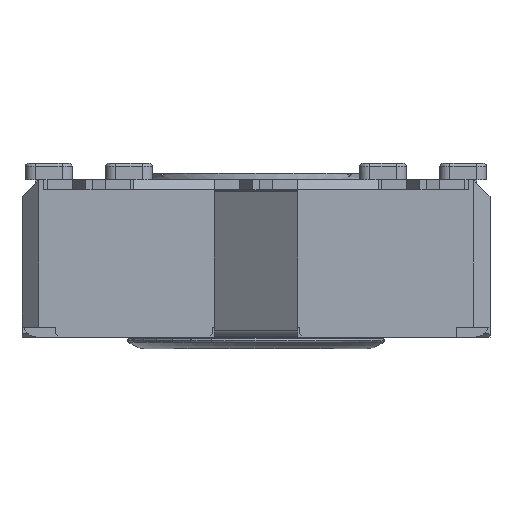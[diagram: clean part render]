
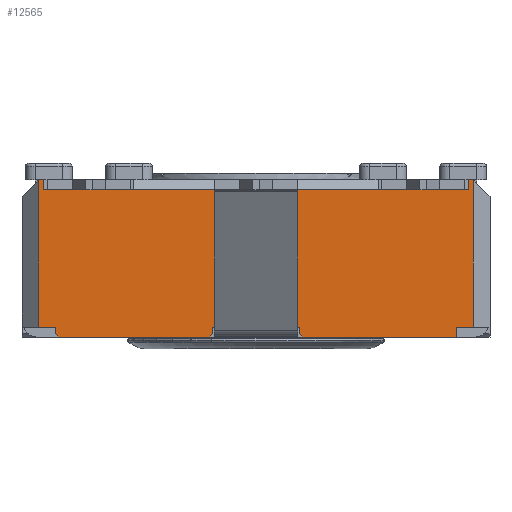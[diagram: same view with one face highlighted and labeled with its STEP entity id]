
A CAD part, front view. The second image highlights one B-rep face of the part: STEP entity #12565.
In plain terms, the highlighted planar face has unit normal (0, -1, 0).
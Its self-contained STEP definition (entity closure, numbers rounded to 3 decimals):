
#405=PLANE('',#13409);
#989=FACE_OUTER_BOUND('',#1662,.T.);
#1662=EDGE_LOOP('',(#10147,#10148,#10149,#10150,#10151,#10152,#10153,#10154,
#10155,#10156,#10157,#10158,#10159,#10160,#10161,#10162,#10163,#10164,#10165,
#10166,#10167,#10168,#10169,#10170,#10171,#10172,#10173));
#2054=LINE('',#17519,#3507);
#2056=LINE('',#17524,#3509);
#2123=LINE('',#17676,#3576);
#2161=LINE('',#17777,#3614);
#2166=LINE('',#17787,#3619);
#2228=LINE('',#17918,#3681);
#2235=LINE('',#17935,#3688);
#2364=LINE('',#18339,#3817);
#2379=LINE('',#18368,#3832);
#2447=LINE('',#18520,#3900);
#2455=LINE('',#18533,#3908);
#2571=LINE('',#18907,#4024);
#2778=LINE('',#19431,#4231);
#2783=LINE('',#19440,#4236);
#2786=LINE('',#19445,#4239);
#2873=LINE('',#19722,#4326);
#2881=LINE('',#19740,#4334);
#2887=LINE('',#19748,#4340);
#2888=LINE('',#19751,#4341);
#2889=LINE('',#19753,#4342);
#2890=LINE('',#19755,#4343);
#2891=LINE('',#19756,#4344);
#2892=LINE('',#19757,#4345);
#2893=LINE('',#19758,#4346);
#2894=LINE('',#19759,#4347);
#2895=LINE('',#19760,#4348);
#2896=LINE('',#19761,#4349);
#3507=VECTOR('',#14033,10.);
#3509=VECTOR('',#14037,10.);
#3576=VECTOR('',#14148,10.);
#3614=VECTOR('',#14224,10.);
#3619=VECTOR('',#14229,10.);
#3681=VECTOR('',#14341,10.);
#3688=VECTOR('',#14354,10.);
#3817=VECTOR('',#14779,10.);
#3832=VECTOR('',#14808,10.);
#3900=VECTOR('',#14958,10.);
#3908=VECTOR('',#14968,10.);
#4024=VECTOR('',#15236,10.);
#4231=VECTOR('',#15585,10.);
#4236=VECTOR('',#15590,10.);
#4239=VECTOR('',#15595,10.);
#4326=VECTOR('',#15820,10.);
#4334=VECTOR('',#15832,10.);
#4340=VECTOR('',#15842,10.);
#4341=VECTOR('',#15845,10.);
#4342=VECTOR('',#15846,10.);
#4343=VECTOR('',#15847,10.);
#4344=VECTOR('',#15848,10.);
#4345=VECTOR('',#15849,10.);
#4346=VECTOR('',#15850,10.);
#4347=VECTOR('',#15851,10.);
#4348=VECTOR('',#15852,10.);
#4349=VECTOR('',#15853,10.);
#5249=VERTEX_POINT('',#17507);
#5253=VERTEX_POINT('',#17517);
#5254=VERTEX_POINT('',#17521);
#5255=VERTEX_POINT('',#17523);
#5268=VERTEX_POINT('',#17555);
#5318=VERTEX_POINT('',#17675);
#5362=VERTEX_POINT('',#17776);
#5366=VERTEX_POINT('',#17784);
#5367=VERTEX_POINT('',#17786);
#5411=VERTEX_POINT('',#17916);
#5418=VERTEX_POINT('',#17934);
#5544=VERTEX_POINT('',#18336);
#5545=VERTEX_POINT('',#18338);
#5551=VERTEX_POINT('',#18365);
#5552=VERTEX_POINT('',#18367);
#5595=VERTEX_POINT('',#18519);
#5599=VERTEX_POINT('',#18531);
#5720=VERTEX_POINT('',#18903);
#5871=VERTEX_POINT('',#19430);
#5875=VERTEX_POINT('',#19438);
#5928=VERTEX_POINT('',#19720);
#5929=VERTEX_POINT('',#19721);
#5936=VERTEX_POINT('',#19738);
#5937=VERTEX_POINT('',#19739);
#5938=VERTEX_POINT('',#19750);
#5939=VERTEX_POINT('',#19752);
#5940=VERTEX_POINT('',#19754);
#6457=EDGE_CURVE('',#5249,#5253,#2054,.T.);
#6459=EDGE_CURVE('',#5255,#5254,#2056,.T.);
#6535=EDGE_CURVE('',#5318,#5268,#2123,.T.);
#6585=EDGE_CURVE('',#5362,#5318,#2161,.T.);
#6590=EDGE_CURVE('',#5367,#5366,#2166,.T.);
#6657=EDGE_CURVE('',#5254,#5411,#2228,.T.);
#6665=EDGE_CURVE('',#5418,#5255,#2235,.T.);
#6868=EDGE_CURVE('',#5545,#5544,#2364,.T.);
#6883=EDGE_CURVE('',#5552,#5551,#2379,.T.);
#6960=EDGE_CURVE('',#5595,#5249,#2447,.T.);
#6968=EDGE_CURVE('',#5253,#5599,#2455,.T.);
#7123=EDGE_CURVE('',#5552,#5720,#2571,.T.);
#7351=EDGE_CURVE('',#5871,#5720,#2778,.T.);
#7356=EDGE_CURVE('',#5268,#5875,#2783,.T.);
#7359=EDGE_CURVE('',#5367,#5544,#2786,.T.);
#7465=EDGE_CURVE('',#5928,#5929,#2873,.T.);
#7473=EDGE_CURVE('',#5936,#5937,#2881,.T.);
#7479=EDGE_CURVE('',#5362,#5928,#2887,.T.);
#7480=EDGE_CURVE('',#5875,#5938,#2888,.T.);
#7481=EDGE_CURVE('',#5939,#5938,#2889,.T.);
#7482=EDGE_CURVE('',#5939,#5940,#2890,.T.);
#7483=EDGE_CURVE('',#5940,#5871,#2891,.T.);
#7484=EDGE_CURVE('',#5551,#5595,#2892,.T.);
#7485=EDGE_CURVE('',#5418,#5599,#2893,.T.);
#7486=EDGE_CURVE('',#5411,#5545,#2894,.T.);
#7487=EDGE_CURVE('',#5366,#5937,#2895,.T.);
#7488=EDGE_CURVE('',#5936,#5929,#2896,.T.);
#10147=ORIENTED_EDGE('',*,*,#7465,.F.);
#10148=ORIENTED_EDGE('',*,*,#7479,.F.);
#10149=ORIENTED_EDGE('',*,*,#6585,.T.);
#10150=ORIENTED_EDGE('',*,*,#6535,.T.);
#10151=ORIENTED_EDGE('',*,*,#7356,.T.);
#10152=ORIENTED_EDGE('',*,*,#7480,.T.);
#10153=ORIENTED_EDGE('',*,*,#7481,.F.);
#10154=ORIENTED_EDGE('',*,*,#7482,.T.);
#10155=ORIENTED_EDGE('',*,*,#7483,.T.);
#10156=ORIENTED_EDGE('',*,*,#7351,.T.);
#10157=ORIENTED_EDGE('',*,*,#7123,.F.);
#10158=ORIENTED_EDGE('',*,*,#6883,.T.);
#10159=ORIENTED_EDGE('',*,*,#7484,.T.);
#10160=ORIENTED_EDGE('',*,*,#6960,.T.);
#10161=ORIENTED_EDGE('',*,*,#6457,.T.);
#10162=ORIENTED_EDGE('',*,*,#6968,.T.);
#10163=ORIENTED_EDGE('',*,*,#7485,.F.);
#10164=ORIENTED_EDGE('',*,*,#6665,.T.);
#10165=ORIENTED_EDGE('',*,*,#6459,.T.);
#10166=ORIENTED_EDGE('',*,*,#6657,.T.);
#10167=ORIENTED_EDGE('',*,*,#7486,.T.);
#10168=ORIENTED_EDGE('',*,*,#6868,.T.);
#10169=ORIENTED_EDGE('',*,*,#7359,.F.);
#10170=ORIENTED_EDGE('',*,*,#6590,.T.);
#10171=ORIENTED_EDGE('',*,*,#7487,.T.);
#10172=ORIENTED_EDGE('',*,*,#7473,.F.);
#10173=ORIENTED_EDGE('',*,*,#7488,.T.);
#12565=ADVANCED_FACE('',(#989),#405,.T.);
#13409=AXIS2_PLACEMENT_3D('',#19749,#15843,#15844);
#14033=DIRECTION('',(-1.,0.,0.));
#14037=DIRECTION('',(-1.,0.,0.));
#14148=DIRECTION('',(1.,0.,0.));
#14224=DIRECTION('',(1.,0.,0.));
#14229=DIRECTION('',(1.,0.,0.));
#14341=DIRECTION('',(-1.,0.,0.));
#14354=DIRECTION('',(-1.,0.,0.));
#14779=DIRECTION('',(-1.,0.,0.));
#14808=DIRECTION('',(-1.,0.,0.));
#14958=DIRECTION('',(-1.,0.,0.));
#14968=DIRECTION('',(-1.,0.,0.));
#15236=DIRECTION('',(0.,0.,-1.));
#15585=DIRECTION('',(1.,0.,0.));
#15590=DIRECTION('',(1.,0.,0.));
#15595=DIRECTION('',(0.,0.,1.));
#15820=DIRECTION('',(-0.707,0.,-0.707));
#15832=DIRECTION('',(-0.707,0.,0.707));
#15842=DIRECTION('',(0.,0.,-1.));
#15843=DIRECTION('center_axis',(0.,-1.,0.));
#15844=DIRECTION('ref_axis',(0.,0.,-1.));
#15845=DIRECTION('',(0.,0.,-1.));
#15846=DIRECTION('',(-0.707,0.,0.707));
#15847=DIRECTION('',(1.,0.,0.));
#15848=DIRECTION('',(0.,0.,1.));
#15849=DIRECTION('',(0.,0.,-1.));
#15850=DIRECTION('',(1.,0.,0.));
#15851=DIRECTION('',(0.,0.,1.));
#15852=DIRECTION('',(0.,0.,-1.));
#15853=DIRECTION('',(1.,0.,0.));
#17507=CARTESIAN_POINT('',(-1.217,-9.898,4.1));
#17517=CARTESIAN_POINT('',(-3.717,-9.898,4.1));
#17519=CARTESIAN_POINT('',(-1.862,-9.898,4.1));
#17521=CARTESIAN_POINT('',(-13.717,-9.898,4.1));
#17523=CARTESIAN_POINT('',(-11.217,-9.898,4.1));
#17524=CARTESIAN_POINT('',(-3.944,-9.898,4.1));
#17555=CARTESIAN_POINT('',(-6.217,-9.898,0.));
#17675=CARTESIAN_POINT('',(-8.717,-9.898,0.));
#17676=CARTESIAN_POINT('',(-14.467,-9.898,0.));
#17776=CARTESIAN_POINT('',(-8.767,-9.898,0.));
#17777=CARTESIAN_POINT('',(-14.467,-9.898,0.));
#17784=CARTESIAN_POINT('',(-13.467,-9.898,0.));
#17786=CARTESIAN_POINT('',(-13.967,-9.898,0.));
#17787=CARTESIAN_POINT('',(-7.245,-9.898,0.));
#17916=CARTESIAN_POINT('',(-13.817,-9.898,4.1));
#17918=CARTESIAN_POINT('',(-3.944,-9.898,4.1));
#17934=CARTESIAN_POINT('',(-11.117,-9.898,4.1));
#17935=CARTESIAN_POINT('',(-3.944,-9.898,4.1));
#18336=CARTESIAN_POINT('',(-13.967,-9.898,4.4));
#18338=CARTESIAN_POINT('',(-13.817,-9.898,4.4));
#18339=CARTESIAN_POINT('',(-14.467,-9.898,4.4));
#18365=CARTESIAN_POINT('',(-1.117,-9.898,4.4));
#18367=CARTESIAN_POINT('',(-0.967,-9.898,4.4));
#18368=CARTESIAN_POINT('',(-14.467,-9.898,4.4));
#18519=CARTESIAN_POINT('',(-1.117,-9.898,4.1));
#18520=CARTESIAN_POINT('',(-1.862,-9.898,4.1));
#18531=CARTESIAN_POINT('',(-3.817,-9.898,4.1));
#18533=CARTESIAN_POINT('',(-1.862,-9.898,4.1));
#18903=CARTESIAN_POINT('',(-0.967,-9.898,0.));
#18907=CARTESIAN_POINT('',(-0.967,-9.898,0.));
#19430=CARTESIAN_POINT('',(-1.467,-9.898,0.));
#19431=CARTESIAN_POINT('',(-0.646,-9.898,0.));
#19438=CARTESIAN_POINT('',(-6.167,-9.898,0.));
#19440=CARTESIAN_POINT('',(-14.467,-9.898,0.));
#19445=CARTESIAN_POINT('',(-13.967,-9.898,0.));
#19720=CARTESIAN_POINT('',(-8.767,-9.898,-0.2));
#19721=CARTESIAN_POINT('',(-8.867,-9.898,-0.3));
#19722=CARTESIAN_POINT('',(-6.667,-9.898,1.9));
#19738=CARTESIAN_POINT('',(-13.367,-9.898,-0.3));
#19739=CARTESIAN_POINT('',(-13.467,-9.898,-0.2));
#19740=CARTESIAN_POINT('',(-10.242,-9.898,-3.425));
#19748=CARTESIAN_POINT('',(-8.767,-9.898,0.));
#19749=CARTESIAN_POINT('Origin',(-0.467,-9.898,0.));
#19750=CARTESIAN_POINT('',(-6.167,-9.898,-0.2));
#19751=CARTESIAN_POINT('',(-6.167,-9.898,0.));
#19752=CARTESIAN_POINT('',(-6.067,-9.898,-0.3));
#19753=CARTESIAN_POINT('',(-4.767,-9.898,-1.6));
#19754=CARTESIAN_POINT('',(-1.467,-9.898,-0.3));
#19755=CARTESIAN_POINT('',(-0.467,-9.898,-0.3));
#19756=CARTESIAN_POINT('',(-1.467,-9.898,-0.15));
#19757=CARTESIAN_POINT('',(-1.117,-9.898,2.2));
#19758=CARTESIAN_POINT('',(-3.967,-9.898,4.1));
#19759=CARTESIAN_POINT('',(-13.817,-9.898,2.2));
#19760=CARTESIAN_POINT('',(-13.467,-9.898,-0.15));
#19761=CARTESIAN_POINT('',(-0.467,-9.898,-0.3));
